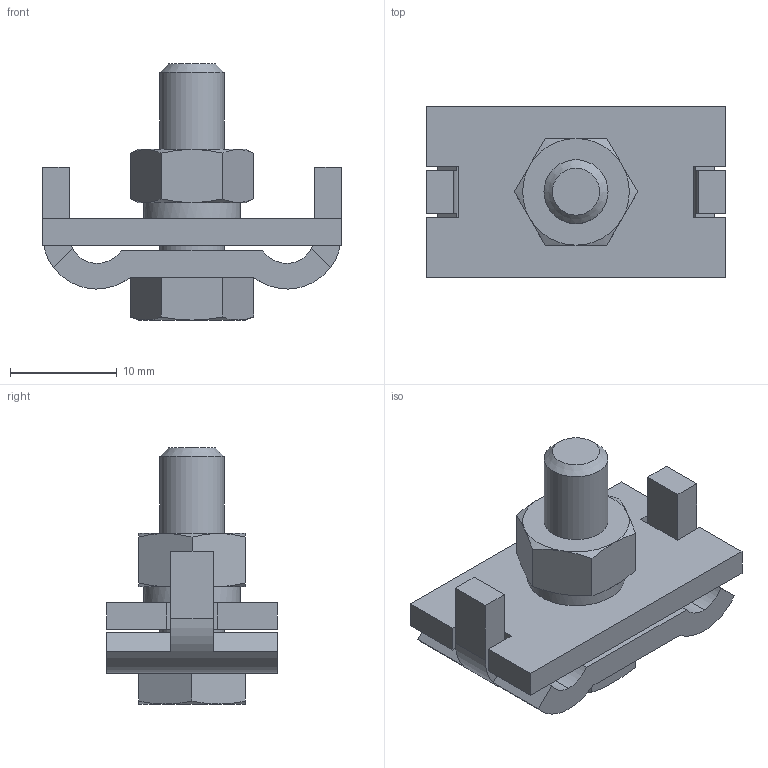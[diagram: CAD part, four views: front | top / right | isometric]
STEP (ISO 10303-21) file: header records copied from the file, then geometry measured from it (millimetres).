
FILE_DESCRIPTION(/* description */ ('Unknown'),/* implementation_level */ '2;1');
FILE_NAME(/* name */ 'Zúp 16',/* time_stamp */ '2021-10-13T11:51:31+02:00',/* author */ ('Unknown'),/* organization */ ('Unknown'),/* preprocessor_version */ 'ST-DEVELOPER v16.7',/* originating_system */ 'Solid Edge',/* authorisation */ 'Unknown');
FILE_SCHEMA (('AUTOMOTIVE_DESIGN {1 0 10303 214 3 1 1}'));
Length unit declared in the file: millimetre
Products named in the file (1): Z侊 16
Bounding box: 28 x 16 x 24 mm (x, y, z)
Volume: 3316.1 mm3; surface area: 3136.4 mm2
Topology: 1 solids, 1 shells, 162 faces, 394 edges, 259 vertices
Faces by surface type: plane 131, cylinder 14, cone 14, torus 3
Full cylindrical faces by diameter (mm): 6 x2, 6.5 x2
Entity records: 5812 total; most frequent: CARTESIAN_POINT 907, ORIENTED_EDGE 764, DIRECTION 734, EDGE_CURVE 382, LINE 288, VECTOR 288, VERTEX_POINT 254, AXIS2_PLACEMENT_3D 223
